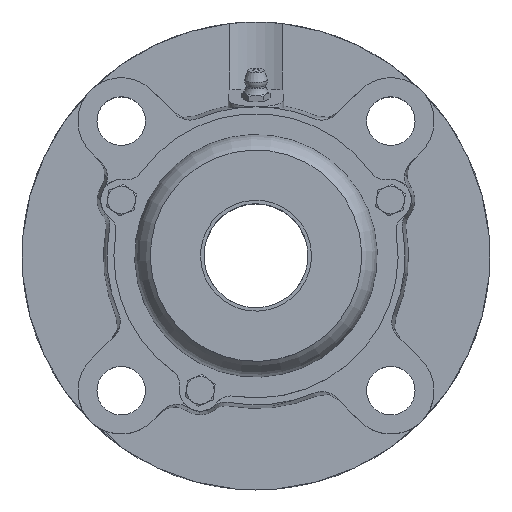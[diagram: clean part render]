
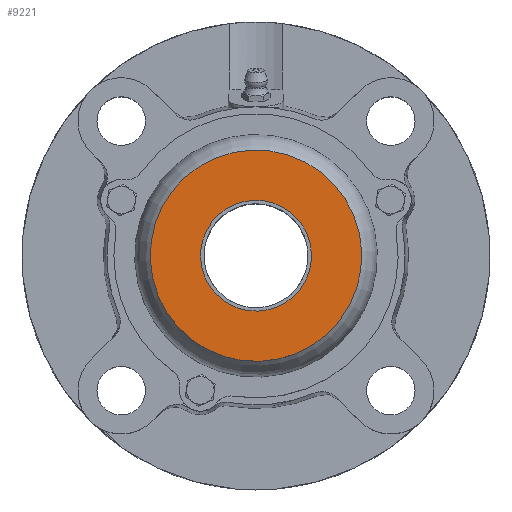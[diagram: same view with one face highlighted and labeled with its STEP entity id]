
A CAD part, top view. The second image highlights one B-rep face of the part: STEP entity #9221.
In plain terms, the highlighted planar face has unit normal (0, 0, 1).
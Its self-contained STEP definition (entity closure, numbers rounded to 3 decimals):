
#8486=CARTESIAN_POINT('',(16.0,0.,27.5));
#8487=VERTEX_POINT('',#8486);
#8488=CARTESIAN_POINT('',(0.0,0.0,27.5));
#8489=DIRECTION('',(0.0,0.0,-1.0));
#8490=DIRECTION('',(-1.0,0.0,0.0));
#8491=AXIS2_PLACEMENT_3D('',#8488,#8489,#8490);
#8492=CIRCLE('',#8491,16.0);
#8493=EDGE_CURVE('',#8487,#8487,#8492,.T.);
#9195=CARTESIAN_POINT('',(0.0,30.5,27.5));
#9196=VERTEX_POINT('',#9195);
#9197=CARTESIAN_POINT('',(0.0,0.,27.5));
#9198=DIRECTION('',(0.0,0.0,1.0));
#9199=DIRECTION('',(0.0,1.0,0.0));
#9200=AXIS2_PLACEMENT_3D('',#9197,#9198,#9199);
#9201=CIRCLE('',#9200,30.5);
#9202=EDGE_CURVE('',#9196,#9196,#9201,.T.);
#9210=CARTESIAN_POINT('',(0.,43.391,27.5));
#9211=DIRECTION('',(0.0,0.0,1.0));
#9212=DIRECTION('',(1.0,0.0,0.0));
#9213=AXIS2_PLACEMENT_3D('',#9210,#9211,#9212);
#9214=PLANE('',#9213);
#9215=ORIENTED_EDGE('',*,*,#9202,.T.);
#9216=EDGE_LOOP('',(#9215));
#9217=FACE_OUTER_BOUND('',#9216,.T.);
#9218=ORIENTED_EDGE('',*,*,#8493,.T.);
#9219=EDGE_LOOP('',(#9218));
#9220=FACE_BOUND('',#9219,.T.);
#9221=ADVANCED_FACE('',(#9217,#9220),#9214,.T.);
